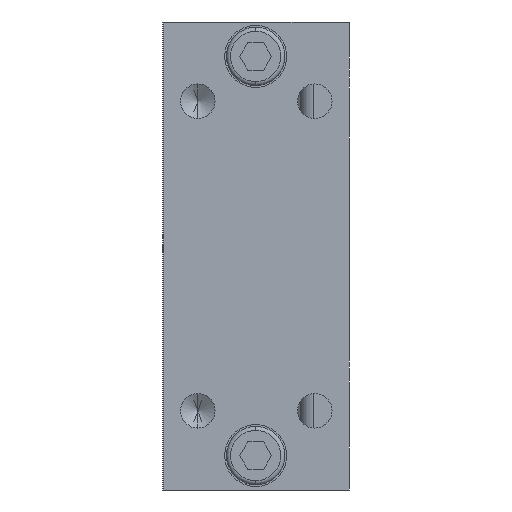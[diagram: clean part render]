
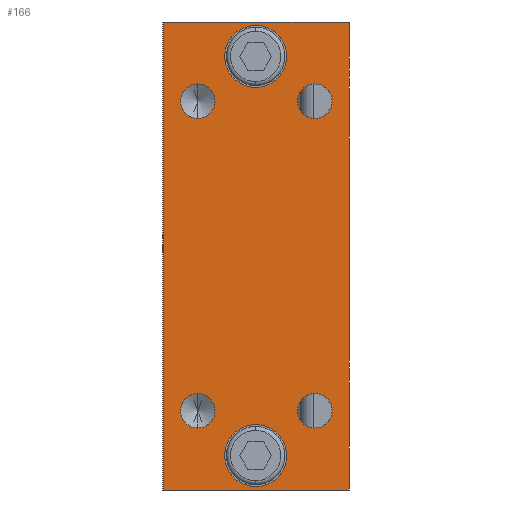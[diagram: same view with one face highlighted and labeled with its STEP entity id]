
A CAD part, front view. The second image highlights one B-rep face of the part: STEP entity #166.
In plain terms, the highlighted planar face has unit normal (0, -1, 0).
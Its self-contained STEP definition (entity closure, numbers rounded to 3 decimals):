
#87 = ORIENTED_EDGE ( 'NONE', *, *, #1985, .F. ) ;
#120 = DIRECTION ( 'NONE',  ( 0., 0., -1. ) ) ;
#122 = DIRECTION ( 'NONE',  ( 0., 0., -1. ) ) ;
#129 = DIRECTION ( 'NONE',  ( 0., 1., 0. ) ) ;
#152 = ORIENTED_EDGE ( 'NONE', *, *, #3728, .F. ) ;
#155 = VERTEX_POINT ( 'NONE', #1674 ) ;
#166 = ADVANCED_FACE ( 'NONE', ( #5941, #2223, #985, #5807, #4549, #3310, #2078 ), #466, .F. ) ;
#169 = CARTESIAN_POINT ( 'NONE',  ( 8.5, -21., -20. ) ) ;
#173 = CARTESIAN_POINT ( 'NONE',  ( -0.1, -21., -29. ) ) ;
#226 = CARTESIAN_POINT ( 'NONE',  ( 8.5, -21., 22.5 ) ) ;
#289 = ORIENTED_EDGE ( 'NONE', *, *, #4374, .F. ) ;
#346 = AXIS2_PLACEMENT_3D ( 'NONE', #725, #129, #1330 ) ;
#382 = CARTESIAN_POINT ( 'NONE',  ( 8.5, -21., 25. ) ) ;
#466 = PLANE ( 'NONE',  #346 ) ;
#498 = VERTEX_POINT ( 'NONE', #5554 ) ;
#585 = ORIENTED_EDGE ( 'NONE', *, *, #5803, .F. ) ;
#604 = DIRECTION ( 'NONE',  ( 0., 0., -1. ) ) ;
#708 = AXIS2_PLACEMENT_3D ( 'NONE', #844, #3962, #4064 ) ;
#725 = CARTESIAN_POINT ( 'NONE',  ( -13.5, -21., 34. ) ) ;
#737 = CIRCLE ( 'NONE', #2732, 2.5 ) ;
#747 = CIRCLE ( 'NONE', #3874, 4.5 ) ;
#782 = VECTOR ( 'NONE', #604, 1000. ) ;
#840 = ORIENTED_EDGE ( 'NONE', *, *, #2585, .F. ) ;
#844 = CARTESIAN_POINT ( 'NONE',  ( 8.5, -21., 22.5 ) ) ;
#985 = FACE_BOUND ( 'NONE', #4576, .T. ) ;
#1004 = ORIENTED_EDGE ( 'NONE', *, *, #5553, .F. ) ;
#1080 = VERTEX_POINT ( 'NONE', #5162 ) ;
#1090 = CARTESIAN_POINT ( 'NONE',  ( -0.1, -21., 24.5 ) ) ;
#1107 = EDGE_LOOP ( 'NONE', ( #2738, #1004 ) ) ;
#1186 = CARTESIAN_POINT ( 'NONE',  ( 8.5, -21., 20. ) ) ;
#1191 = CARTESIAN_POINT ( 'NONE',  ( -13.5, -21., -34. ) ) ;
#1302 = CARTESIAN_POINT ( 'NONE',  ( -13.5, -21., 34. ) ) ;
#1330 = DIRECTION ( 'NONE',  ( 0., 0., 1. ) ) ;
#1355 = CARTESIAN_POINT ( 'NONE',  ( -8.5, -21., 25. ) ) ;
#1375 = CARTESIAN_POINT ( 'NONE',  ( 13.5, -21., -34. ) ) ;
#1391 = DIRECTION ( 'NONE',  ( 0., 0., -1. ) ) ;
#1407 = DIRECTION ( 'NONE',  ( 0., -1., 0. ) ) ;
#1432 = CARTESIAN_POINT ( 'NONE',  ( -13.5, -21., -34. ) ) ;
#1449 = CARTESIAN_POINT ( 'NONE',  ( -13.5, -21., 34. ) ) ;
#1462 = DIRECTION ( 'NONE',  ( 0., -1., 0. ) ) ;
#1499 = DIRECTION ( 'NONE',  ( 0., -1., 0. ) ) ;
#1511 = CARTESIAN_POINT ( 'NONE',  ( -8.5, -21., -20. ) ) ;
#1537 = DIRECTION ( 'NONE',  ( 0., -1., 0. ) ) ;
#1610 = VECTOR ( 'NONE', #120, 1000. ) ;
#1674 = CARTESIAN_POINT ( 'NONE',  ( 13.5, -21., 34. ) ) ;
#1711 = CARTESIAN_POINT ( 'NONE',  ( -0.1, -21., -33.5 ) ) ;
#1730 = VERTEX_POINT ( 'NONE', #169 ) ;
#1810 = DIRECTION ( 'NONE',  ( 0., -1., 0. ) ) ;
#1843 = CARTESIAN_POINT ( 'NONE',  ( -8.5, -21., 20. ) ) ;
#1873 = LINE ( 'NONE', #3789, #782 ) ;
#1895 = AXIS2_PLACEMENT_3D ( 'NONE', #4605, #1810, #5065 ) ;
#1964 = CARTESIAN_POINT ( 'NONE',  ( 8.5, -21., -22.5 ) ) ;
#1985 = EDGE_CURVE ( 'NONE', #155, #2115, #1873, .T. ) ;
#2029 = EDGE_CURVE ( 'NONE', #5889, #2055, #4057, .T. ) ;
#2055 = VERTEX_POINT ( 'NONE', #2870 ) ;
#2078 = FACE_OUTER_BOUND ( 'NONE', #4336, .T. ) ;
#2093 = ORIENTED_EDGE ( 'NONE', *, *, #2128, .F. ) ;
#2115 = VERTEX_POINT ( 'NONE', #1375 ) ;
#2128 = EDGE_CURVE ( 'NONE', #3284, #4850, #4717, .T. ) ;
#2136 = DIRECTION ( 'NONE',  ( 0., -1., 0. ) ) ;
#2139 = VECTOR ( 'NONE', #5684, 1000. ) ;
#2223 = FACE_BOUND ( 'NONE', #2463, .T. ) ;
#2240 = AXIS2_PLACEMENT_3D ( 'NONE', #1964, #1499, #3022 ) ;
#2387 = CIRCLE ( 'NONE', #5935, 2.5 ) ;
#2400 = EDGE_LOOP ( 'NONE', ( #2946, #5960 ) ) ;
#2420 = DIRECTION ( 'NONE',  ( 0., 0., -1. ) ) ;
#2463 = EDGE_LOOP ( 'NONE', ( #3624, #2739 ) ) ;
#2474 = DIRECTION ( 'NONE',  ( 0., 0., -1. ) ) ;
#2495 = EDGE_CURVE ( 'NONE', #1730, #1080, #2819, .T. ) ;
#2498 = EDGE_LOOP ( 'NONE', ( #2093, #289 ) ) ;
#2501 = AXIS2_PLACEMENT_3D ( 'NONE', #2938, #1537, #4078 ) ;
#2585 = EDGE_CURVE ( 'NONE', #4170, #4120, #2387, .T. ) ;
#2605 = ORIENTED_EDGE ( 'NONE', *, *, #2854, .F. ) ;
#2677 = DIRECTION ( 'NONE',  ( 0., 0., -1. ) ) ;
#2719 = VECTOR ( 'NONE', #4124, 1000. ) ;
#2732 = AXIS2_PLACEMENT_3D ( 'NONE', #4914, #2136, #5411 ) ;
#2738 = ORIENTED_EDGE ( 'NONE', *, *, #2029, .F. ) ;
#2739 = ORIENTED_EDGE ( 'NONE', *, *, #4727, .F. ) ;
#2819 = CIRCLE ( 'NONE', #2501, 2.5 ) ;
#2837 = DIRECTION ( 'NONE',  ( 0., 0., -1. ) ) ;
#2854 = EDGE_CURVE ( 'NONE', #4120, #4170, #4485, .T. ) ;
#2870 = CARTESIAN_POINT ( 'NONE',  ( -0.1, -21., -24.5 ) ) ;
#2909 = CARTESIAN_POINT ( 'NONE',  ( -8.5, -21., -25. ) ) ;
#2910 = DIRECTION ( 'NONE',  ( 0., -1., 0. ) ) ;
#2938 = CARTESIAN_POINT ( 'NONE',  ( 8.5, -21., -22.5 ) ) ;
#2946 = ORIENTED_EDGE ( 'NONE', *, *, #4029, .F. ) ;
#3022 = DIRECTION ( 'NONE',  ( 0., 0., -1. ) ) ;
#3037 = ORIENTED_EDGE ( 'NONE', *, *, #4554, .T. ) ;
#3211 = VERTEX_POINT ( 'NONE', #1511 ) ;
#3228 = CARTESIAN_POINT ( 'NONE',  ( -13.5, -21., 34. ) ) ;
#3243 = ORIENTED_EDGE ( 'NONE', *, *, #4812, .F. ) ;
#3284 = VERTEX_POINT ( 'NONE', #1843 ) ;
#3310 = FACE_BOUND ( 'NONE', #2498, .T. ) ;
#3347 = VERTEX_POINT ( 'NONE', #1432 ) ;
#3372 = AXIS2_PLACEMENT_3D ( 'NONE', #3575, #1462, #3957 ) ;
#3575 = CARTESIAN_POINT ( 'NONE',  ( -8.5, -21., 22.5 ) ) ;
#3624 = ORIENTED_EDGE ( 'NONE', *, *, #4093, .F. ) ;
#3719 = CARTESIAN_POINT ( 'NONE',  ( -8.5, -21., 22.5 ) ) ;
#3728 = EDGE_CURVE ( 'NONE', #4860, #155, #5047, .T. ) ;
#3747 = DIRECTION ( 'NONE',  ( 0., -1., 0. ) ) ;
#3759 = DIRECTION ( 'NONE',  ( 0., -1., 0. ) ) ;
#3789 = CARTESIAN_POINT ( 'NONE',  ( 13.5, -21., 34. ) ) ;
#3874 = AXIS2_PLACEMENT_3D ( 'NONE', #4651, #3747, #2420 ) ;
#3957 = DIRECTION ( 'NONE',  ( 0., 0., -1. ) ) ;
#3962 = DIRECTION ( 'NONE',  ( 0., -1., 0. ) ) ;
#3978 = AXIS2_PLACEMENT_3D ( 'NONE', #173, #4753, #2474 ) ;
#4025 = CIRCLE ( 'NONE', #1895, 2.5 ) ;
#4029 = EDGE_CURVE ( 'NONE', #1080, #1730, #4693, .T. ) ;
#4057 = CIRCLE ( 'NONE', #3978, 4.5 ) ;
#4064 = DIRECTION ( 'NONE',  ( 0., 0., -1. ) ) ;
#4078 = DIRECTION ( 'NONE',  ( 0., 0., -1. ) ) ;
#4093 = EDGE_CURVE ( 'NONE', #5070, #498, #4542, .T. ) ;
#4107 = AXIS2_PLACEMENT_3D ( 'NONE', #4705, #3759, #2837 ) ;
#4120 = VERTEX_POINT ( 'NONE', #382 ) ;
#4124 = DIRECTION ( 'NONE',  ( 1., 0., 0. ) ) ;
#4170 = VERTEX_POINT ( 'NONE', #1186 ) ;
#4250 = LINE ( 'NONE', #1449, #1610 ) ;
#4278 = EDGE_CURVE ( 'NONE', #3347, #2115, #5863, .T. ) ;
#4336 = EDGE_LOOP ( 'NONE', ( #5789, #87, #152, #3037 ) ) ;
#4374 = EDGE_CURVE ( 'NONE', #4850, #3284, #5286, .T. ) ;
#4418 = AXIS2_PLACEMENT_3D ( 'NONE', #5715, #2910, #122 ) ;
#4469 = VERTEX_POINT ( 'NONE', #2909 ) ;
#4485 = CIRCLE ( 'NONE', #708, 2.5 ) ;
#4542 = CIRCLE ( 'NONE', #4107, 4.5 ) ;
#4549 = FACE_BOUND ( 'NONE', #5172, .T. ) ;
#4554 = EDGE_CURVE ( 'NONE', #4860, #3347, #4250, .T. ) ;
#4576 = EDGE_LOOP ( 'NONE', ( #840, #2605 ) ) ;
#4603 = AXIS2_PLACEMENT_3D ( 'NONE', #3719, #1407, #1391 ) ;
#4605 = CARTESIAN_POINT ( 'NONE',  ( -8.5, -21., -22.5 ) ) ;
#4651 = CARTESIAN_POINT ( 'NONE',  ( -0.1, -21., 29. ) ) ;
#4693 = CIRCLE ( 'NONE', #2240, 2.5 ) ;
#4705 = CARTESIAN_POINT ( 'NONE',  ( -0.1, -21., 29. ) ) ;
#4717 = CIRCLE ( 'NONE', #4603, 2.5 ) ;
#4727 = EDGE_CURVE ( 'NONE', #498, #5070, #747, .T. ) ;
#4753 = DIRECTION ( 'NONE',  ( 0., -1., 0. ) ) ;
#4812 = EDGE_CURVE ( 'NONE', #3211, #4469, #4025, .T. ) ;
#4850 = VERTEX_POINT ( 'NONE', #1355 ) ;
#4860 = VERTEX_POINT ( 'NONE', #3228 ) ;
#4914 = CARTESIAN_POINT ( 'NONE',  ( -8.5, -21., -22.5 ) ) ;
#5047 = LINE ( 'NONE', #1302, #2719 ) ;
#5065 = DIRECTION ( 'NONE',  ( 0., 0., -1. ) ) ;
#5070 = VERTEX_POINT ( 'NONE', #1090 ) ;
#5162 = CARTESIAN_POINT ( 'NONE',  ( 8.5, -21., -25. ) ) ;
#5172 = EDGE_LOOP ( 'NONE', ( #585, #3243 ) ) ;
#5286 = CIRCLE ( 'NONE', #3372, 2.5 ) ;
#5411 = DIRECTION ( 'NONE',  ( 0., 0., -1. ) ) ;
#5483 = DIRECTION ( 'NONE',  ( 0., -1., 0. ) ) ;
#5553 = EDGE_CURVE ( 'NONE', #2055, #5889, #5778, .T. ) ;
#5554 = CARTESIAN_POINT ( 'NONE',  ( -0.1, -21., 33.5 ) ) ;
#5684 = DIRECTION ( 'NONE',  ( 1., 0., 0. ) ) ;
#5715 = CARTESIAN_POINT ( 'NONE',  ( -0.1, -21., -29. ) ) ;
#5778 = CIRCLE ( 'NONE', #4418, 4.5 ) ;
#5789 = ORIENTED_EDGE ( 'NONE', *, *, #4278, .T. ) ;
#5803 = EDGE_CURVE ( 'NONE', #4469, #3211, #737, .T. ) ;
#5807 = FACE_BOUND ( 'NONE', #2400, .T. ) ;
#5863 = LINE ( 'NONE', #1191, #2139 ) ;
#5889 = VERTEX_POINT ( 'NONE', #1711 ) ;
#5935 = AXIS2_PLACEMENT_3D ( 'NONE', #226, #5483, #2677 ) ;
#5941 = FACE_BOUND ( 'NONE', #1107, .T. ) ;
#5960 = ORIENTED_EDGE ( 'NONE', *, *, #2495, .F. ) ;
